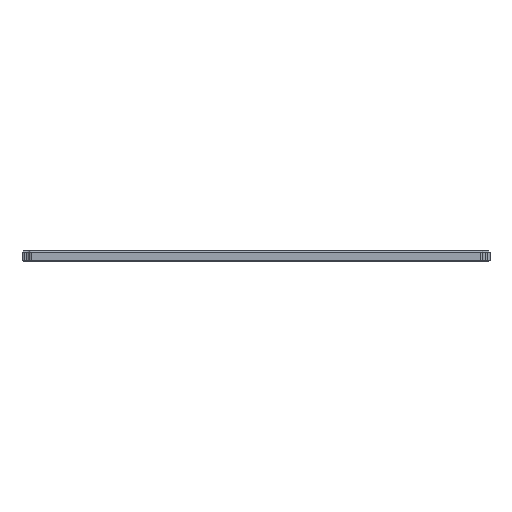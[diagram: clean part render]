
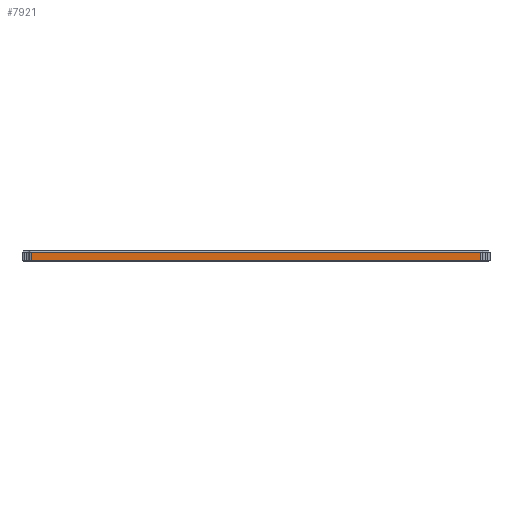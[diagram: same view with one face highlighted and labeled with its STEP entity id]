
A CAD part, left-side view. The second image highlights one B-rep face of the part: STEP entity #7921.
In plain terms, the highlighted planar face has unit normal (-1, 0, 0).
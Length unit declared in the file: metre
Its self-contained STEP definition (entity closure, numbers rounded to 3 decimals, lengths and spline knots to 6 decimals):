
#934=ORIENTED_EDGE('',*,*,#3146,.T.);
#935=ORIENTED_EDGE('',*,*,#3131,.T.);
#936=ORIENTED_EDGE('',*,*,#3147,.F.);
#937=ORIENTED_EDGE('',*,*,#3148,.F.);
#3131=EDGE_CURVE('',#4241,#4240,#4964,.F.);
#3146=EDGE_CURVE('',#4250,#4241,#4974,.T.);
#3147=EDGE_CURVE('',#4251,#4240,#4975,.F.);
#3148=EDGE_CURVE('',#4250,#4251,#4976,.T.);
#4240=VERTEX_POINT('',#11795);
#4241=VERTEX_POINT('',#11797);
#4250=VERTEX_POINT('',#11827);
#4251=VERTEX_POINT('',#11829);
#4964=LINE('',#11796,#5486);
#4974=LINE('',#11826,#5496);
#4975=LINE('',#11828,#5497);
#4976=LINE('',#11830,#5498);
#5486=VECTOR('',#9311,1.);
#5496=VECTOR('',#9343,1.);
#5497=VECTOR('',#9344,1.);
#5498=VECTOR('',#9345,1.);
#6011=EDGE_LOOP('',(#934,#935,#936,#937));
#6923=FACE_BOUND('',#6011,.T.);
#7831=PLANE('',#8332);
#7921=ADVANCED_FACE('',(#6923),#7831,.F.);
#8332=AXIS2_PLACEMENT_3D('',#11825,#9341,#9342);
#9311=DIRECTION('',(0.,0.,-1.));
#9341=DIRECTION('',(1.,0.,0.));
#9342=DIRECTION('',(0.,-1.,0.));
#9343=DIRECTION('',(0.,-1.,0.));
#9344=DIRECTION('',(0.,1.,0.));
#9345=DIRECTION('',(0.,0.,1.));
#11795=CARTESIAN_POINT('',(0.045,-0.096,0.0502));
#11796=CARTESIAN_POINT('',(0.045,-0.096,0.046));
#11797=CARTESIAN_POINT('',(0.045,-0.096,0.0466));
#11825=CARTESIAN_POINT('',(0.045,0.097,0.046));
#11826=CARTESIAN_POINT('',(0.045,0.097,0.0466));
#11827=CARTESIAN_POINT('',(0.045,0.096,0.0466));
#11828=CARTESIAN_POINT('',(0.045,0.096,0.0502));
#11829=CARTESIAN_POINT('',(0.045,0.096,0.0502));
#11830=CARTESIAN_POINT('',(0.045,0.096,0.046));
